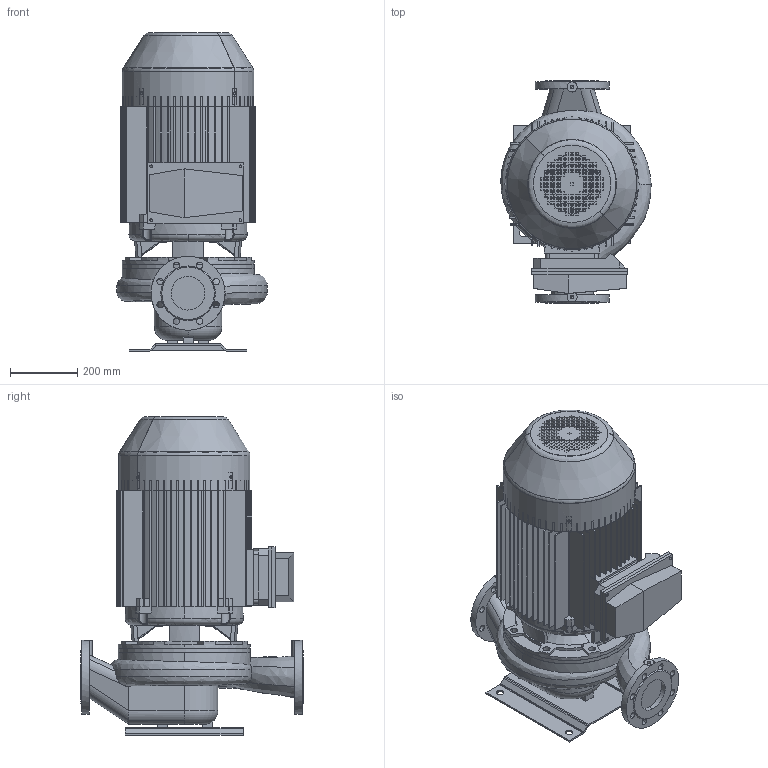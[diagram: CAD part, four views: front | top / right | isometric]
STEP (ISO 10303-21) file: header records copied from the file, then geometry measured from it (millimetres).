
FILE_DESCRIPTION(('STEP AP214'),'1');
FILE_NAME('export.stp','2018-05-29T07:48:59',(' '),(' '),'Spatial InterOp 3D',' ',' ');
FILE_SCHEMA(('AUTOMOTIVE_DESIGN { 1 0 10303 214 1 1 1 1 }'));
Length unit declared in the file: millimetre
Products named in the file (14): W_L100S2370_KP205; V_TLL100SAL1202; V_PPL100S; P100496; P100495; P100342; R200363; R200118; V_MKP205-J1-F31; R200144; R200138; R200137; R200147; R200368
Assembly tree (14 placements, depth 4):
  W_L100S2370_KP205
    V_TLL100SAL1202
    V_PPL100S
    P100496
      P100495  x2
      P100342
    V_MKP205-J1-F31
      R200363
        R200118
      R200144
      R200138
      R200137
      R200147
      R200368
Bounding box: 446.61 x 660 x 947.5 mm (x, y, z)
Volume: 40045107.8 mm3; surface area: 5275324.2 mm2
Topology: 11 solids, 11 shells, 1896 faces, 5546 edges, 3668 vertices
Faces by surface type: plane 1322, cylinder 440, cone 58, torus 38, bspline 38
Entity records: 100139 total; most frequent: CARTESIAN_POINT 17904, ORIENTED_EDGE 11048, DIRECTION 10006, EDGE_CURVE 5524, STYLED_ITEM 4951, PRESENTATION_STYLE_ASSIGNMENT 4951, COLOUR_RGB 4951, LINE 4180
